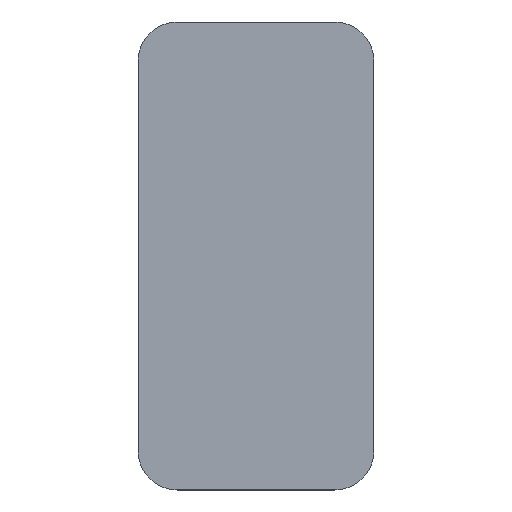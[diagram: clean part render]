
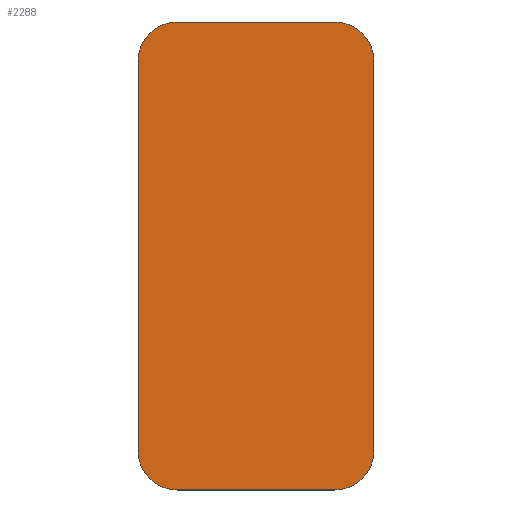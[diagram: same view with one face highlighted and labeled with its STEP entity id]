
A CAD part, top view. The second image highlights one B-rep face of the part: STEP entity #2288.
In plain terms, the highlighted planar face has unit normal (0, 0, 1).
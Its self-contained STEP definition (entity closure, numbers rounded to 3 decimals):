
#100 = LINE ( 'NONE', #6047, #110 ) ;
#106 = CIRCLE ( 'NONE', #8614, 10. ) ;
#109 = CIRCLE ( 'NONE', #8616, 10. ) ;
#110 = VECTOR ( 'NONE', #6019, 1000. ) ;
#111 = LINE ( 'NONE', #6046, #113 ) ;
#112 = CIRCLE ( 'NONE', #8617, 10. ) ;
#113 = VECTOR ( 'NONE', #6045, 1000. ) ;
#114 = LINE ( 'NONE', #6051, #116 ) ;
#115 = CIRCLE ( 'NONE', #8618, 10. ) ;
#116 = VECTOR ( 'NONE', #6052, 1000. ) ;
#117 = LINE ( 'NONE', #6056, #119 ) ;
#119 = VECTOR ( 'NONE', #6057, 1000. ) ;
#2146 = CARTESIAN_POINT ( 'NONE',  ( -20., 59.5, 10. ) ) ;
#2147 = CARTESIAN_POINT ( 'NONE',  ( 20., 59.5, 10. ) ) ;
#2148 = CARTESIAN_POINT ( 'NONE',  ( -20., -59.5, 10. ) ) ;
#2149 = CARTESIAN_POINT ( 'NONE',  ( -30., 49.5, 10. ) ) ;
#2150 = CARTESIAN_POINT ( 'NONE',  ( 20., -59.5, 10. ) ) ;
#2288 = ADVANCED_FACE ( 'NONE', ( #9686 ), #3904, .T. ) ;
#3904 = PLANE ( 'NONE',  #8001 ) ;
#3906 = CARTESIAN_POINT ( 'NONE',  ( 0., 0., 10. ) ) ;
#3911 = DIRECTION ( 'NONE',  ( 0., 0., 1. ) ) ;
#3912 = DIRECTION ( 'NONE',  ( 1., 0., 0. ) ) ;
#6019 = DIRECTION ( 'NONE',  ( -1., 0., 0. ) ) ;
#6045 = DIRECTION ( 'NONE',  ( 0., 1., 0. ) ) ;
#6046 = CARTESIAN_POINT ( 'NONE',  ( -30., 59.5, 10. ) ) ;
#6047 = CARTESIAN_POINT ( 'NONE',  ( -30., -59.5, 10. ) ) ;
#6048 = CARTESIAN_POINT ( 'NONE',  ( 20., -49.5, 10. ) ) ;
#6049 = DIRECTION ( 'NONE',  ( 0., 0., 1. ) ) ;
#6050 = DIRECTION ( 'NONE',  ( 1., 0., 0. ) ) ;
#6051 = CARTESIAN_POINT ( 'NONE',  ( 1.655, 59.5, 10. ) ) ;
#6052 = DIRECTION ( 'NONE',  ( 1., 0., 0. ) ) ;
#6053 = CARTESIAN_POINT ( 'NONE',  ( -20., -49.5, 10. ) ) ;
#6054 = DIRECTION ( 'NONE',  ( 0., 0., 1. ) ) ;
#6055 = DIRECTION ( 'NONE',  ( 1., 0., 0. ) ) ;
#6056 = CARTESIAN_POINT ( 'NONE',  ( 30., -59.5, 10. ) ) ;
#6057 = DIRECTION ( 'NONE',  ( 0., -1., 0. ) ) ;
#6058 = CARTESIAN_POINT ( 'NONE',  ( -20., 49.5, 10. ) ) ;
#6059 = DIRECTION ( 'NONE',  ( 0., 0., 1. ) ) ;
#6060 = DIRECTION ( 'NONE',  ( 1., 0., 0. ) ) ;
#6063 = CARTESIAN_POINT ( 'NONE',  ( 20., 49.5, 10. ) ) ;
#6064 = DIRECTION ( 'NONE',  ( 0., 0., 1. ) ) ;
#6065 = DIRECTION ( 'NONE',  ( 1., 0., 0. ) ) ;
#7791 = CARTESIAN_POINT ( 'NONE',  ( 30., -49.5, 10. ) ) ;
#7794 = CARTESIAN_POINT ( 'NONE',  ( 30., 49.5, 10. ) ) ;
#7832 = CARTESIAN_POINT ( 'NONE',  ( -30., -49.5, 10. ) ) ;
#8001 = AXIS2_PLACEMENT_3D ( 'NONE', #3906, #3911, #3912 ) ;
#8614 = AXIS2_PLACEMENT_3D ( 'NONE', #6048, #6049, #6050 ) ;
#8616 = AXIS2_PLACEMENT_3D ( 'NONE', #6053, #6054, #6055 ) ;
#8617 = AXIS2_PLACEMENT_3D ( 'NONE', #6058, #6059, #6060 ) ;
#8618 = AXIS2_PLACEMENT_3D ( 'NONE', #6063, #6064, #6065 ) ;
#8682 = VERTEX_POINT ( 'NONE', #2146 ) ;
#8683 = VERTEX_POINT ( 'NONE', #2147 ) ;
#8684 = VERTEX_POINT ( 'NONE', #2150 ) ;
#8685 = VERTEX_POINT ( 'NONE', #2149 ) ;
#8687 = VERTEX_POINT ( 'NONE', #2148 ) ;
#8812 = ORIENTED_EDGE ( 'NONE', *, *, #11806, .T. ) ;
#8815 = ORIENTED_EDGE ( 'NONE', *, *, #11805, .F. ) ;
#8817 = ORIENTED_EDGE ( 'NONE', *, *, #11804, .T. ) ;
#8819 = ORIENTED_EDGE ( 'NONE', *, *, #11803, .F. ) ;
#8821 = ORIENTED_EDGE ( 'NONE', *, *, #11802, .T. ) ;
#9686 = FACE_OUTER_BOUND ( 'NONE', #13122, .T. ) ;
#11802 = EDGE_CURVE ( 'NONE', #8684, #13539, #106, .T. ) ;
#11803 = EDGE_CURVE ( 'NONE', #8684, #8687, #100, .T. ) ;
#11804 = EDGE_CURVE ( 'NONE', #13583, #8687, #109, .T. ) ;
#11805 = EDGE_CURVE ( 'NONE', #13583, #8685, #111, .T. ) ;
#11806 = EDGE_CURVE ( 'NONE', #8682, #8685, #112, .T. ) ;
#11807 = EDGE_CURVE ( 'NONE', #8682, #8683, #114, .T. ) ;
#11808 = EDGE_CURVE ( 'NONE', #13543, #8683, #115, .T. ) ;
#11809 = EDGE_CURVE ( 'NONE', #13543, #13539, #117, .T. ) ;
#13122 = EDGE_LOOP ( 'NONE', ( #13313, #13314, #13315, #8812, #8815, #8817, #8819, #8821 ) ) ;
#13313 = ORIENTED_EDGE ( 'NONE', *, *, #11809, .F. ) ;
#13314 = ORIENTED_EDGE ( 'NONE', *, *, #11808, .T. ) ;
#13315 = ORIENTED_EDGE ( 'NONE', *, *, #11807, .F. ) ;
#13539 = VERTEX_POINT ( 'NONE', #7791 ) ;
#13543 = VERTEX_POINT ( 'NONE', #7794 ) ;
#13583 = VERTEX_POINT ( 'NONE', #7832 ) ;
